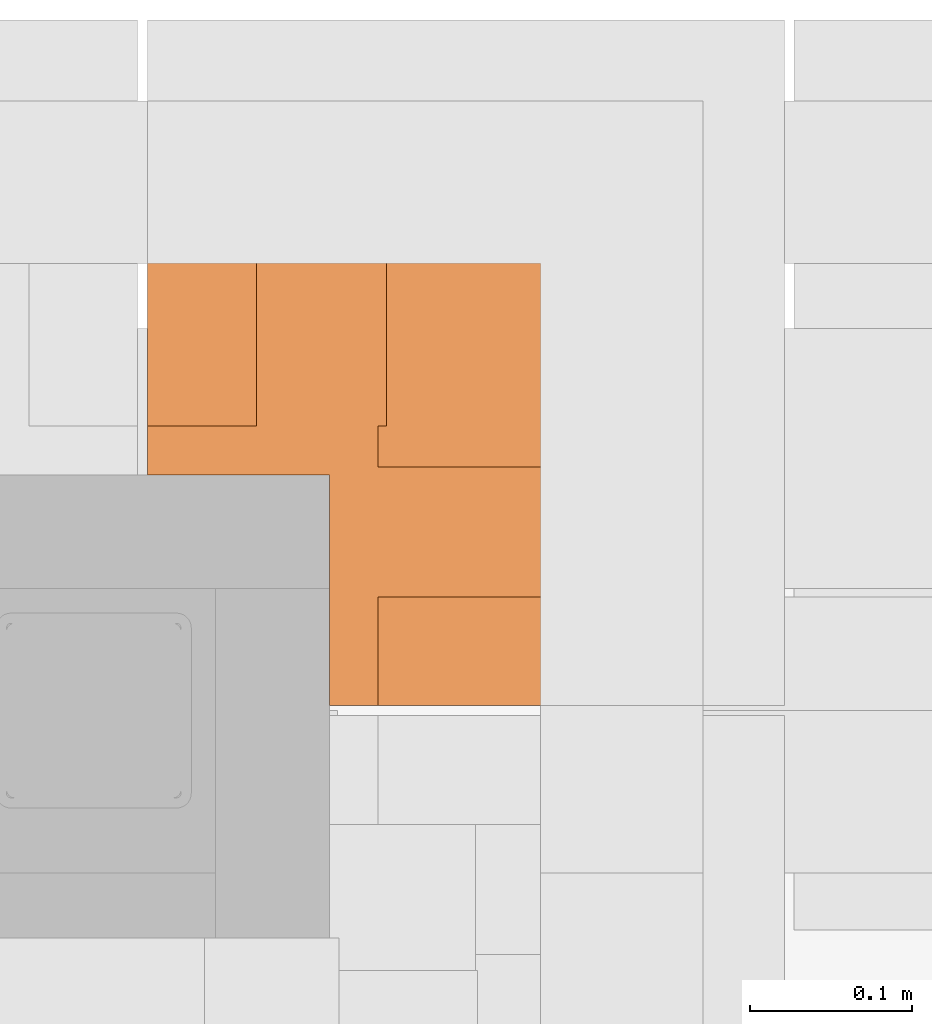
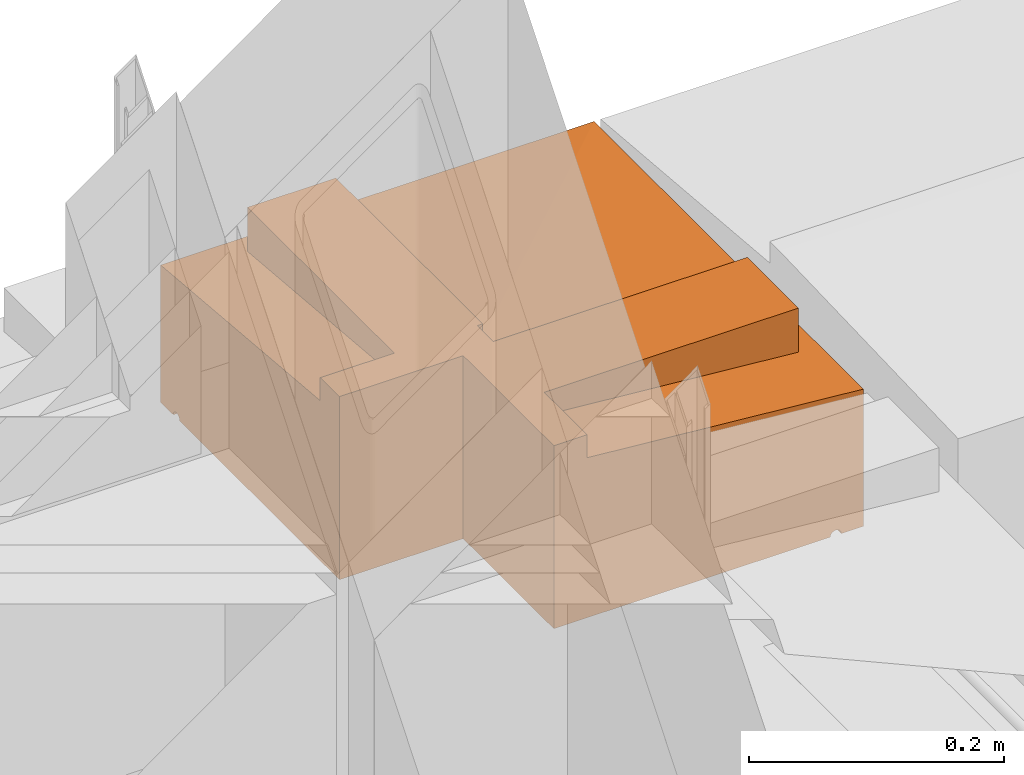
# One storey, part 128 of 128: 1 proxy.
"""IFC2X3 building model written with IfcOpenShell, lengths in millimetres."""

from ifc_helpers import new_model, entity, si_unit, converted_unit, derived_unit, direction, frame, origin, place, context, subcontext, project, spatial, faceted_brep, source, transform, mapped, material, type_object, type_shapes, element, save


model = new_model("IFC2X3")

# Units and contexts
model_context = context("Model", 3, precision=0.01, world=origin(), true_north=direction((6.123031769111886e-17, 1.0)))
body_context = subcontext(model_context, "Body", "Model", "MODEL_VIEW")
ifc_project = project(units=[si_unit("LENGTHUNIT", "METRE", prefix="MILLI"), si_unit("AREAUNIT", "SQUARE_METRE"), si_unit("VOLUMEUNIT", "CUBIC_METRE"), converted_unit("PLANEANGLEUNIT", "DEGREE", entity("IfcRatioMeasure", 0.017453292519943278), si_unit("PLANEANGLEUNIT", "RADIAN"), dimensions=[0, 0, 0, 0, 0, 0, 0]), si_unit("MASSUNIT", "GRAM", prefix="KILO"), derived_unit("MASSDENSITYUNIT", [(si_unit("MASSUNIT", "GRAM", prefix="KILO"), 1), (si_unit("LENGTHUNIT", "METRE"), -3)]), derived_unit("IONCONCENTRATIONUNIT", [(si_unit("MASSUNIT", "GRAM", prefix="KILO"), 1), (si_unit("LENGTHUNIT", "METRE"), -3)]), derived_unit("MOMENTOFINERTIAUNIT", [(si_unit("LENGTHUNIT", "METRE"), 4)]), si_unit("TIMEUNIT", "SECOND"), si_unit("FREQUENCYUNIT", "HERTZ"), si_unit("THERMODYNAMICTEMPERATUREUNIT", "DEGREE_CELSIUS"), derived_unit("THERMALTRANSMITTANCEUNIT", [(si_unit("MASSUNIT", "GRAM", prefix="KILO"), 1), (si_unit("THERMODYNAMICTEMPERATUREUNIT", "KELVIN"), -1), (si_unit("TIMEUNIT", "SECOND"), -3)]), derived_unit("THERMALCONDUCTANCEUNIT", [(si_unit("MASSUNIT", "GRAM", prefix="KILO"), 1), (si_unit("THERMODYNAMICTEMPERATUREUNIT", "KELVIN"), -1), (si_unit("TIMEUNIT", "SECOND"), -3), (si_unit("LENGTHUNIT", "METRE"), 1)]), derived_unit("VOLUMETRICFLOWRATEUNIT", [(si_unit("LENGTHUNIT", "METRE"), 3), (si_unit("TIMEUNIT", "SECOND"), -1)]), derived_unit("MASSFLOWRATEUNIT", [(si_unit("MASSUNIT", "GRAM", prefix="KILO"), 1), (si_unit("TIMEUNIT", "SECOND"), -1)]), derived_unit("ROTATIONALFREQUENCYUNIT", [(si_unit("TIMEUNIT", "SECOND"), -1)]), si_unit("ELECTRICCURRENTUNIT", "AMPERE"), si_unit("ELECTRICVOLTAGEUNIT", "VOLT"), si_unit("POWERUNIT", "WATT"), si_unit("FORCEUNIT", "NEWTON", prefix="KILO"), si_unit("ILLUMINANCEUNIT", "LUX"), si_unit("LUMINOUSFLUXUNIT", "LUMEN"), si_unit("LUMINOUSINTENSITYUNIT", "CANDELA"), derived_unit("USERDEFINED", [(si_unit("MASSUNIT", "GRAM", prefix="KILO"), -1), (si_unit("LENGTHUNIT", "METRE"), -2), (si_unit("TIMEUNIT", "SECOND"), 3), (si_unit("LUMINOUSFLUXUNIT", "LUMEN"), 1)]), derived_unit("USERDEFINED", [(si_unit("MASSUNIT", "GRAM", prefix="KILO"), 1), (si_unit("TIMEUNIT", "SECOND"), -3), (si_unit("LENGTHUNIT", "METRE"), 3), (si_unit("ELECTRICCURRENTUNIT", "AMPERE"), -2)]), derived_unit("SOUNDPOWERUNIT", [(si_unit("MASSUNIT", "GRAM", prefix="KILO"), 1), (si_unit("TIMEUNIT", "SECOND"), -3), (si_unit("LENGTHUNIT", "METRE"), 2)]), derived_unit("SOUNDPRESSUREUNIT", [(si_unit("MASSUNIT", "GRAM", prefix="KILO"), 1), (si_unit("LENGTHUNIT", "METRE"), -1), (si_unit("TIMEUNIT", "SECOND"), -2)]), derived_unit("LINEARVELOCITYUNIT", [(si_unit("LENGTHUNIT", "METRE"), 1), (si_unit("TIMEUNIT", "SECOND"), -1)]), si_unit("PRESSUREUNIT", "PASCAL"), derived_unit("USERDEFINED", [(si_unit("MASSUNIT", "GRAM", prefix="KILO"), 1), (si_unit("LENGTHUNIT", "METRE"), -2), (si_unit("TIMEUNIT", "SECOND"), -2)]), derived_unit("LINEARFORCEUNIT", [(si_unit("MASSUNIT", "GRAM", prefix="KILO"), 1), (si_unit("TIMEUNIT", "SECOND"), -2)]), derived_unit("PLANARFORCEUNIT", [(si_unit("MASSUNIT", "GRAM", prefix="KILO"), 1), (si_unit("LENGTHUNIT", "METRE"), -1), (si_unit("TIMEUNIT", "SECOND"), -2)]), derived_unit("SPECIFICHEATCAPACITYUNIT", [(si_unit("THERMODYNAMICTEMPERATUREUNIT", "KELVIN"), -1), (si_unit("LENGTHUNIT", "METRE"), 2), (si_unit("TIMEUNIT", "SECOND"), -2)]), derived_unit("HEATINGVALUEUNIT", [(si_unit("LENGTHUNIT", "METRE"), 2), (si_unit("TIMEUNIT", "SECOND"), -2)]), derived_unit("VAPORPERMEABILITYUNIT", [(si_unit("LENGTHUNIT", "METRE"), -1), (si_unit("TIMEUNIT", "SECOND"), 1)]), derived_unit("DYNAMICVISCOSITYUNIT", [(si_unit("MASSUNIT", "GRAM", prefix="KILO"), 1), (si_unit("TIMEUNIT", "SECOND"), -1), (si_unit("LENGTHUNIT", "METRE"), -1)]), derived_unit("THERMALEXPANSIONCOEFFICIENTUNIT", [(si_unit("THERMODYNAMICTEMPERATUREUNIT", "KELVIN"), -1)]), derived_unit("MODULUSOFELASTICITYUNIT", [(si_unit("MASSUNIT", "GRAM", prefix="KILO"), 1), (si_unit("LENGTHUNIT", "METRE"), -1), (si_unit("TIMEUNIT", "SECOND"), -2)]), derived_unit("ISOTHERMALMOISTURECAPACITYUNIT", [(si_unit("LENGTHUNIT", "METRE"), 3), (si_unit("MASSUNIT", "GRAM", prefix="KILO"), -1)]), derived_unit("MOISTUREDIFFUSIVITYUNIT", [(si_unit("TIMEUNIT", "SECOND"), -1), (si_unit("LENGTHUNIT", "METRE"), 2)])], contexts=[model_context])

# Site, building, storey
site_placement = place(None, frame((0.0, 300.0, 0.0)))
site = spatial("IfcSite", under=ifc_project, at=site_placement, Name="<Kadastrale nummers>", CompositionType="ELEMENT")
building_placement = place(site_placement, origin())
building = spatial("IfcBuilding", under=site, at=building_placement, CompositionType="ELEMENT")
storey_placement = place(building_placement, frame((0.0, 0.0, 3560.0000331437)))
storey = spatial("IfcBuildingStorey", under=building, at=storey_placement, Name="01 eerste verdieping", CompositionType="ELEMENT", Elevation=3560.0000331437)

# Proxy
ifc_material = material(Name="ISR_Beton_prefab")
building_element_proxy_type = type_object("IfcBuildingElementProxyType", Name="29_DAT_Prefab betonnen waterslag lang Hoekoplossing:29_DAT_Prefab betonnen waterslag lang Hoekoplossing Block", PredefinedType="NOTDEFINED", material=ifc_material)
shared_shape = source(origin(), body_context, "Body", "Brep", [
    faceted_brep([(-20.0, -275.0, 175.0), (-20.0, -275.0, 132.83432784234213), (-250.0, -275.0, 152.9567204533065), (-250.0, -275.0, 175.0), (-20.0, -355.0, 175.0), (-250.0, -355.0, 175.0), (-250.0, -355.0, 152.9567204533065), (-20.0, -355.0, 132.83432784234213)], [[[0, 1, 2, 3]], [[4, 5, 6, 7]], [[3, 5, 4, 0]], [[2, 6, 5, 3]], [[1, 7, 6, 2]], [[0, 4, 7, 1]]]),
    faceted_brep([(-245.0, -20.0, 175.0), (-245.0, -250.0, 175.0), (-245.0, -250.0, 152.9567204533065), (-245.0, -20.0, 132.83432784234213), (-325.0, -20.0, 175.0), (-325.0, -20.0, 132.83432784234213), (-325.0, -250.0, 152.9567204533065), (-325.0, -250.0, 175.0)], [[[0, 1, 2, 3]], [[4, 5, 6, 7]], [[1, 0, 4, 7]], [[2, 1, 7, 6]], [[3, 2, 6, 5]], [[0, 3, 5, 4]]]),
    faceted_brep([(0.0, -422.0, 0.0), (-20.0, -422.0, 0.0), (-20.0, -343.92311336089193, 0.0), (-20.0, -282.4615566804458, 0.0), (-20.0, -221.0, 0.0), (-20.0, -159.53844331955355, 0.0), (-20.0, -98.0768866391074, 0.0), (-20.0, -20.0, 0.0), (-98.07688392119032, -20.0, 0.0), (-152.03844139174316, -20.0, 0.0), (-205.99999886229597, -20.0, 0.0), (-259.96155633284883, -20.0, 0.0), (-313.92311380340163, -20.0, 0.0), (-392.0, -20.0, 0.0), (-392.0, 0.0, 0.0), (0.0, 0.0, 0.0), (-280.0, -280.0, 0.0), (-392.0, -280.0, 0.0), (-392.0, -30.0, 0.0), (-313.9231167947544, -30.0, 0.0), (-235.84622954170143, -30.0, 0.0), (-171.9615583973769, -30.0, 0.0), (-108.07688725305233, -30.0, 0.0), (-30.0, -30.0, 0.0), (-30.0, -108.07688688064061, 0.0), (-30.0, -147.92311550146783, 0.0), (-30.0, -206.8846708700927, 0.0), (-30.0, -265.8462262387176, 0.0), (-30.0, -343.92311311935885, 0.0), (-30.0, -422.0, 0.0), (-280.0, -422.0, 0.0), (-29.829629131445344, -422.0, 1.2940952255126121), (-29.330127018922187, -422.0, 2.50000000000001), (-28.535533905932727, -422.0, 3.535533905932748), (-27.499999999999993, -422.0, 4.3301270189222), (-26.294095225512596, -422.0, 4.829629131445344), (-25.0, -422.0, 5.0), (-23.705904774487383, -422.0, 4.829629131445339), (-22.499999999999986, -422.0, 4.330127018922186), (-21.464466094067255, -422.0, 3.535533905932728), (-20.669872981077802, -422.0, 2.4999999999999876), (-20.170370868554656, -422.0, 1.294095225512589), (0.0, -422.0, 131.12783411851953), (-250.0, -422.0, 153.0), (-250.0, -422.0, 175.0), (-280.0, -422.0, 175.0), (-392.0, -280.0, 175.0), (-392.0, -250.0, 175.0), (-392.0, -250.0, 153.0), (-392.0, 0.0, 131.12783411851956), (-392.0, -20.170370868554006, 1.2940952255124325), (-392.0, -20.66987298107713, 2.4999999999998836), (-392.0, -21.464466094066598, 3.535533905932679), (-392.0, -22.49999999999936, 4.330127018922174), (-392.0, -23.70590477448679, 4.829629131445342), (-392.0, -25.0, 5.0), (-392.0, -26.294095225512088, 4.8296291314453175), (-392.0, -27.49999999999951, 4.330127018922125), (-392.0, -28.535533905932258, 3.535533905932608), (-392.0, -29.330127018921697, 2.4999999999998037), (-392.0, -29.829629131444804, 1.2940952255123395), (-280.0, -280.0, 175.0), (0.0, 0.0, 131.12783411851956), (-250.0, -250.0, 153.0), (-250.0, -250.0, 175.0), (-25.652630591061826, -367.59616216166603, 4.9572243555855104), (-23.705904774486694, -23.705904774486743, 4.8296291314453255), (-24.662301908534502, -76.47207706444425, 4.988582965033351), (-25.0, -25.0, 5.0), (-26.013178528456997, -181.85769351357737, 4.896270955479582), (-25.397569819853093, -236.36544527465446, 4.984168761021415), (-24.99999989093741, -313.1923312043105, 5.0), (-27.499999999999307, -27.499999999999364, 4.3301270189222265), (-26.294095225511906, -26.294095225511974, 4.8296291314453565), (-29.330127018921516, -29.330127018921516, 2.5000000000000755), (-20.170370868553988, -20.170370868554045, 1.2940952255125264), (-24.686813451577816, -127.9999980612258, 4.990181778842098), (-22.4999999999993, -22.499999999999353, 4.3301270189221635), (-29.829629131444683, -29.829629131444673, 1.2940952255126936), (-20.66987298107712, -20.6698729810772, 2.4999999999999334), (-21.464466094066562, -21.464466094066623, 3.5355339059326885), (-28.535533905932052, -28.535533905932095, 3.5355339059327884), (-216.90294788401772, -25.15085263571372, 4.997723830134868), (-125.05766886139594, -24.723746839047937, 4.992362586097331), (-333.4423363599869, -24.90567355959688, 4.999110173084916), (-274.8846727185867, -25.0, 5.0)], [[[0, 1, 2, 3, 4, 5, 6, 7, 8, 9, 10, 11, 12, 13, 14, 15]], [[16, 17, 18, 19, 20, 21, 22, 23, 24, 25, 26, 27, 28, 29, 30]], [[31, 32, 33, 34, 35, 36, 37, 38, 39, 40, 41, 1, 0, 42, 43, 44, 45, 30, 29]], [[18, 17, 46, 47, 48, 49, 14, 13, 50, 51, 52, 53, 54, 55, 56, 57, 58, 59, 60]], [[30, 45, 61, 16]], [[42, 0, 15, 62]], [[43, 42, 62, 63]], [[44, 43, 63, 64]], [[44, 64, 47, 46, 61, 45]], [[16, 61, 46, 17]], [[62, 15, 14, 49]], [[63, 62, 49, 48]], [[64, 63, 48, 47]], [[65, 34, 33]], [[66, 67, 68]], [[69, 70, 26]], [[71, 65, 28]], [[71, 28, 27]], [[67, 72, 73]], [[24, 74, 67]], [[75, 7, 6]], [[2, 1, 41]], [[27, 70, 71]], [[3, 71, 70]], [[36, 65, 37]], [[24, 76, 25]], [[71, 2, 65]], [[31, 28, 65]], [[66, 77, 67]], [[4, 3, 70]], [[78, 74, 24]], [[4, 70, 69]], [[3, 2, 71]], [[5, 4, 69]], [[69, 76, 5]], [[6, 67, 79]], [[26, 25, 69]], [[40, 2, 41]], [[31, 29, 28]], [[24, 23, 78]], [[67, 73, 68]], [[32, 31, 65]], [[24, 67, 76]], [[26, 70, 27]], [[67, 80, 79]], [[81, 67, 74]], [[40, 65, 2]], [[67, 77, 80]], [[75, 6, 79]], [[38, 65, 39]], [[67, 6, 76]], [[36, 35, 65]], [[35, 34, 65]], [[38, 37, 65]], [[65, 40, 39]], [[32, 65, 33]], [[76, 69, 25]], [[67, 81, 72]], [[76, 6, 5]], [[21, 20, 82]], [[82, 9, 83]], [[54, 53, 84]], [[52, 51, 84]], [[78, 22, 74]], [[12, 84, 51]], [[57, 56, 84]], [[79, 80, 8]], [[10, 9, 82, 11]], [[19, 18, 60]], [[22, 78, 23]], [[13, 12, 50]], [[8, 7, 75]], [[82, 83, 21]], [[85, 11, 82]], [[85, 12, 11]], [[75, 79, 8]], [[72, 22, 83]], [[53, 52, 84]], [[84, 58, 57]], [[84, 85, 19]], [[59, 19, 60]], [[59, 84, 19]], [[50, 12, 51]], [[68, 73, 83]], [[81, 74, 22]], [[83, 22, 21]], [[19, 85, 20]], [[68, 83, 8]], [[82, 20, 85]], [[56, 55, 84]], [[22, 72, 81]], [[73, 72, 83]], [[55, 54, 84]], [[66, 8, 77]], [[12, 85, 84]], [[68, 8, 66]], [[80, 77, 8]], [[83, 9, 8]], [[59, 58, 84]]]),
])
type_shapes(building_element_proxy_type, [shared_shape])
proxy_placement = place(storey_placement, frame((41825.0, 50225.0, 715.0000018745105)))
element("IfcBuildingElementProxy", 1, at=proxy_placement, inside=storey, type_object=building_element_proxy_type, material=ifc_material, Name="29_DAT_Prefab betonnen waterslag lang Hoekoplossing:29_DAT_Prefab betonnen waterslag lang Hoekoplossing Block", ObjectType="29_DAT_Prefab betonnen waterslag lang Hoekoplossing:29_DAT_Prefab betonnen waterslag lang Hoekoplossing Block", context=body_context, shape_type="MappedRepresentation", body=[
    mapped(shared_shape, transform((0.0, 0.0, 0.0), scale=1.0)),
])

save(model, "model.ifc")
